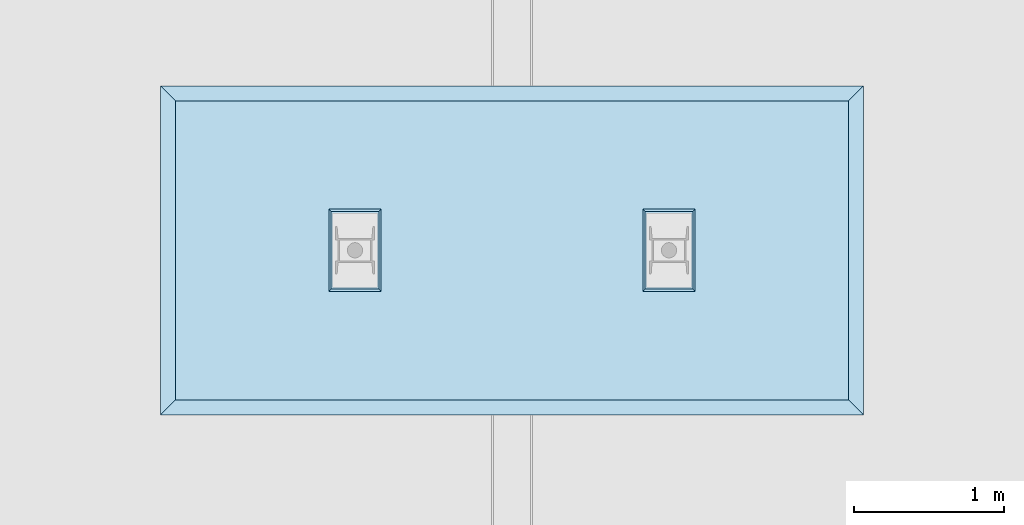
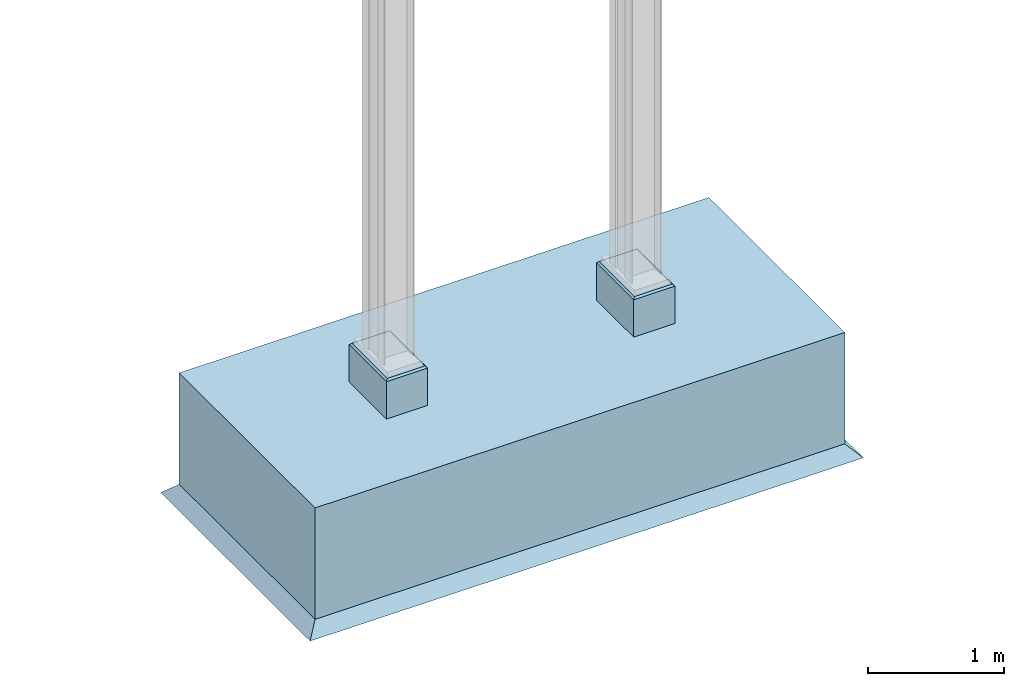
# One storey, incomplete: 1 slab.
"""IFC4 building model written with IfcOpenShell, lengths in metres."""

from ifc_helpers import new_model, entity, si_unit, converted_unit, direction, origin, place, context, subcontext, project, spatial, polygons, material, type_object, element, save


model = new_model("IFC4")

# Units and contexts
model_context = context("Model", 3, precision=1e-05, world=origin(), true_north=direction((6.123031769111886e-17, 1.0)))
body_context = subcontext(model_context, "Body", "Model", "MODEL_VIEW")
ifc_project = project(units=[si_unit("LENGTHUNIT", "METRE"), converted_unit("PLANEANGLEUNIT", "DEGREE", entity("IfcPlaneAngleMeasure", 0.017453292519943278), si_unit("PLANEANGLEUNIT", "RADIAN"), dimensions=[0, 0, 0, 0, 0, 0, 0])], contexts=[model_context])

# Site, building, storey
site_placement = place(None, origin())
site = spatial("IfcSite", under=ifc_project, at=site_placement, Name="Default", CompositionType="ELEMENT")
building_placement = place(site_placement, origin())
building = spatial("IfcBuilding", under=site, at=building_placement, CompositionType="ELEMENT")
storey_placement = place(building_placement, origin())
storey = spatial("IfcBuildingStorey", under=building, at=storey_placement, Name="DB_Bezugshoehe_max_Bahnsteigkante", CompositionType="ELEMENT", Elevation=0.0)

# Slab
ifc_material = material(Name="DB_Ortbeton", Category="DB_Beton")
slab_type = type_object("IfcSlabType", Name="DB_Systemdach_Fundament:Variante1", PredefinedType="BASESLAB", material=ifc_material)
slab_placement = place(storey_placement, origin())
element("IfcSlab", 1, at=slab_placement, inside=storey, type_object=slab_type, Name="DB_Systemdach_Fundament:Variante1", ObjectType="DB_Systemdach_Fundament:Variante1", PredefinedType="BASESLAB", context=body_context, shape_type="Tessellation", body=[
    polygons([(2.2500000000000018, 1.000000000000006, -0.24999999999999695), (-2.249999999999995, 1.000000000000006, -0.24999999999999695), (-2.2499999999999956, -0.9999999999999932, -0.24999999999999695), (2.2500000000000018, -0.9999999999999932, -0.24999999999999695), (2.2500000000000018, 1.000000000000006, -1.249999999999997), (2.2500000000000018, -0.9999999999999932, -1.249999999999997), (-2.2499999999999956, -0.9999999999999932, -1.249999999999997), (-2.249999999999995, 1.000000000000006, -1.249999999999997)], [[[1, 2, 3, 4]], [[5, 6, 7, 8]], [[2, 1, 5, 8]], [[3, 2, 8, 7]], [[4, 3, 7, 6]], [[1, 4, 6, 5]]], closed=True),
    polygons([(2.250000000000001, 1.0000000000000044, -1.249999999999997), (-2.249999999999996, 1.0000000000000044, -1.249999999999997), (-2.249999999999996, -0.9999999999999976, -1.249999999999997), (2.250000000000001, -0.9999999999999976, -1.249999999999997), (2.3500000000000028, 1.100000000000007, -1.3499999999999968), (2.350000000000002, -1.1000000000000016, -1.3499999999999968), (-2.35, -1.1000000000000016, -1.3499999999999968), (-2.35, 1.100000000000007, -1.3499999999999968)], [[[1, 2, 3, 4]], [[5, 6, 7, 8]], [[5, 8, 2, 1]], [[8, 7, 3, 2]], [[7, 6, 4, 3]], [[6, 5, 1, 4]]], closed=True),
    polygons([(1.2249999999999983, 0.2749999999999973, 0.08500000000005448), (0.8749999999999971, 0.2749999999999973, 0.08500000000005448), (0.8749999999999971, -0.27499999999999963, 0.08500000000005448), (1.2249999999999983, -0.27499999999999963, 0.08500000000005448), (1.2249999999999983, 0.2749999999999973, -0.24999999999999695), (0.8749999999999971, 0.2749999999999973, -0.24999999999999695), (0.8749999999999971, -0.27499999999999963, -0.24999999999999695), (1.2249999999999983, -0.27499999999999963, -0.24999999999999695)], [[[1, 2, 3, 4]], [[2, 1, 5, 6]], [[3, 2, 6, 7]], [[4, 3, 7, 8]], [[1, 4, 8, 5]], [[5, 8, 7, 6]]], closed=True),
    polygons([(-0.8750000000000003, 0.2749999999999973, -0.24999999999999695), (-0.8750000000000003, -0.27499999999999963, -0.24999999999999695), (-1.2249999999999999, -0.27499999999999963, -0.24999999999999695), (-1.2249999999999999, 0.2749999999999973, -0.24999999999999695), (-1.2249999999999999, 0.2749999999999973, 0.08500000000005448), (-0.8750000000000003, 0.2749999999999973, 0.08500000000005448), (-1.2249999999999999, -0.27499999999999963, 0.08500000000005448), (-0.8750000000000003, -0.27499999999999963, 0.08500000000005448)], [[[1, 2, 3, 4]], [[5, 6, 1, 4]], [[7, 5, 4, 3]], [[8, 7, 3, 2]], [[6, 8, 2, 1]], [[6, 5, 7, 8]]], closed=True),
    polygons([(0.8899999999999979, 0.25999999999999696, 0.09999999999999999), (0.8899999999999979, -0.25999999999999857, 0.09999999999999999), (1.2099999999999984, -0.25999999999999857, 0.09999999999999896), (1.2099999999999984, 0.2599999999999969, 0.09999999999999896), (0.8749999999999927, 0.2749999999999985, 0.08500000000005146), (1.2249999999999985, 0.2749999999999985, 0.08500000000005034), (1.2249999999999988, -0.2749999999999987, 0.08500000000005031), (0.8749999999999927, -0.27499999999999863, 0.08500000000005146)], [[[1, 2, 3, 4]], [[5, 6, 7, 8]], [[6, 5, 1, 4]], [[7, 6, 4, 3]], [[8, 7, 3, 2]], [[5, 8, 2, 1]]], closed=True),
    polygons([(-1.210000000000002, 0.2599999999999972, 0.10000000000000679), (-1.210000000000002, -0.2599999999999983, 0.10000000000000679), (-0.8900000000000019, -0.25999999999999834, 0.10000000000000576), (-0.8900000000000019, 0.2599999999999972, 0.10000000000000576), (-1.2250000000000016, 0.27499999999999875, 0.08500000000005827), (-0.8750000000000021, 0.27499999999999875, 0.08500000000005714), (-0.8750000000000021, -0.2749999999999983, 0.08500000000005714), (-1.2250000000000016, -0.2749999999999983, 0.08500000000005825)], [[[1, 2, 3, 4]], [[5, 6, 7, 8]], [[6, 5, 1, 4]], [[7, 6, 4, 3]], [[8, 7, 3, 2]], [[5, 8, 2, 1]]], closed=True),
])

save(model, "model.ifc")
